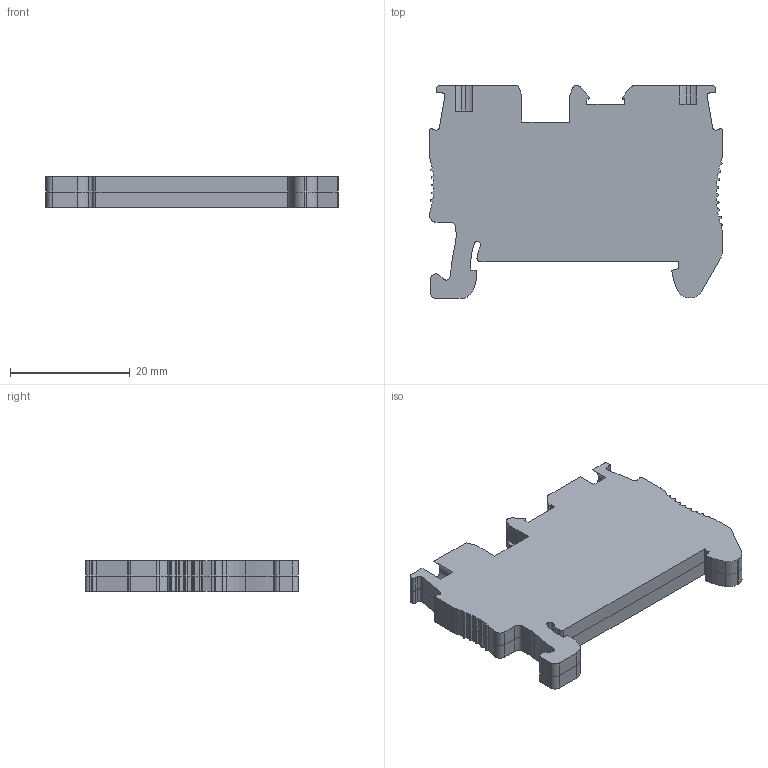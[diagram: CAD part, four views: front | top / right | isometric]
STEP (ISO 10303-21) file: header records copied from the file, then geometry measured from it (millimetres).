
FILE_DESCRIPTION(/* description */ (''),/* implementation_level */ '2;1');
FILE_NAME(/* name */ '',/* time_stamp */ '',/* author */ (''),/* organization */ (''),/* preprocessor_version */ '',/* originating_system */ '',/* authorisation */ '');
FILE_SCHEMA (('AUTOMOTIVE_DESIGN { 1 0 10303 214 3 1 1 }'));
Length unit declared in the file: millimetre
Products named in the file (1): Деталь8
Bounding box: 48.9 x 35.55 x 5.15 mm (x, y, z)
Volume: 6760.8 mm3; surface area: 6621.2 mm2
Topology: 2 solids, 2 shells, 390 faces, 1158 edges, 772 vertices
Faces by surface type: plane 240, cylinder 150
Entity records: 13548 total; most frequent: CARTESIAN_POINT 2321, ORIENTED_EDGE 2316, DIRECTION 2242, EDGE_CURVE 1158, LINE 856, VECTOR 856, VERTEX_POINT 772, AXIS2_PLACEMENT_3D 693
